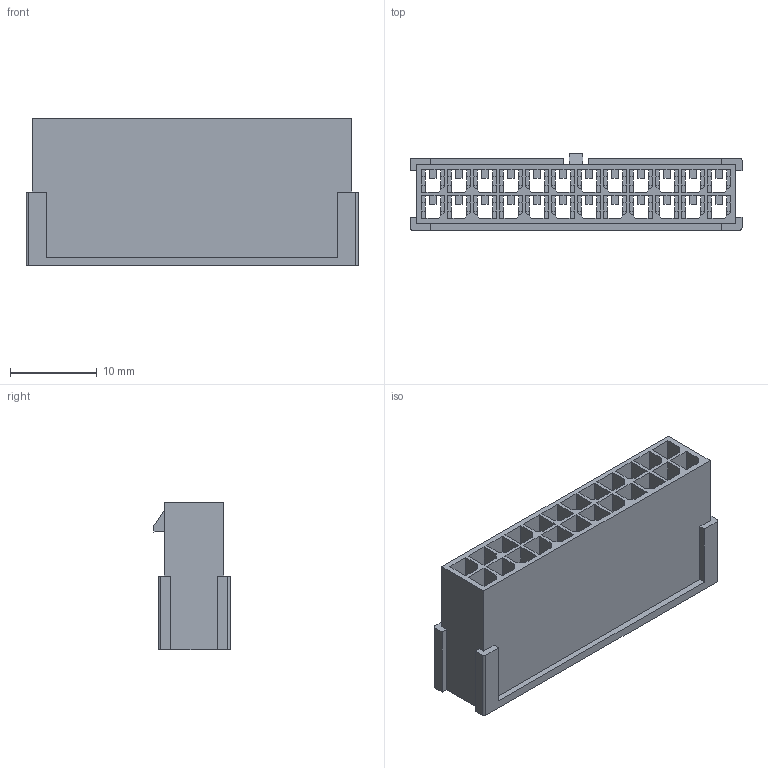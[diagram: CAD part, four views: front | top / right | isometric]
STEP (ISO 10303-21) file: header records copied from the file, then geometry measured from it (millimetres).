
FILE_DESCRIPTION(('CATIA V5 STEP Exchange'),'2;1');
FILE_NAME('F:\黄富鸿\条形连接器\3.00系列\02--MX3.0（双排）\2xNSY\HC-MX3.0-2x12SY-05（3.00 双排 母孔座-HCTL）.stp','2025-11-27T02:24:46+00:00',('none'),('none'),'CATIA Version 5 Release 20 GA (IN-10)','CATIA V5 STEP AP203','none');
FILE_SCHEMA(('CONFIG_CONTROL_DESIGN'));
Length unit declared in the file: millimetre
Products named in the file (1): Part2
Bounding box: 38.3 x 8.78 x 17 mm (x, y, z)
Volume: 1907.4 mm3; surface area: 6337.4 mm2
Topology: 1 solids, 1 shells, 857 faces, 2490 edges, 1660 vertices
Faces by surface type: plane 851, cylinder 6
Entity records: 24212 total; most frequent: ORIENTED_EDGE 4980, CARTESIAN_POINT 4290, DIRECTION 2768, EDGE_CURVE 2490, VECTOR 2478, LINE 2478, VERTEX_POINT 1660, EDGE_LOOP 930
